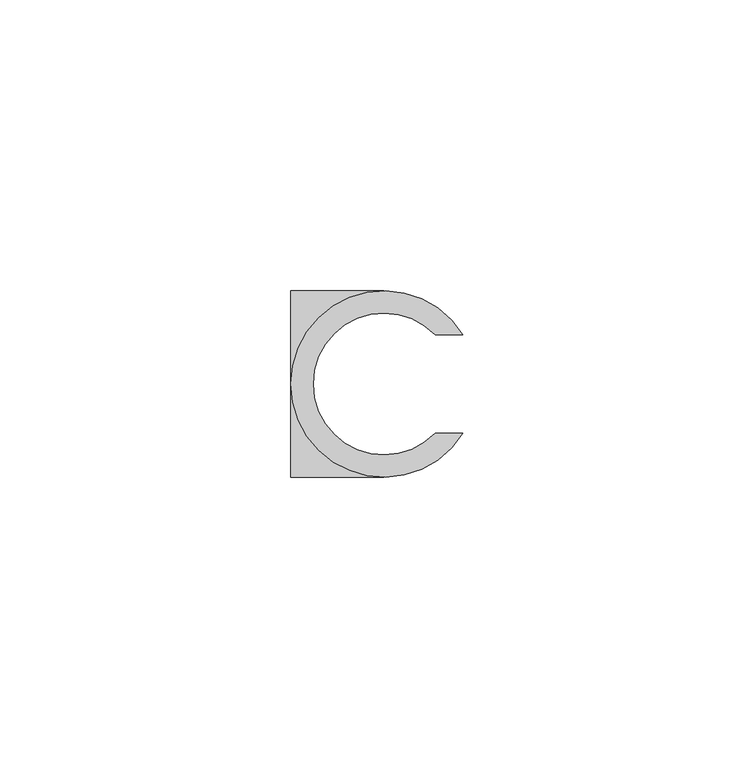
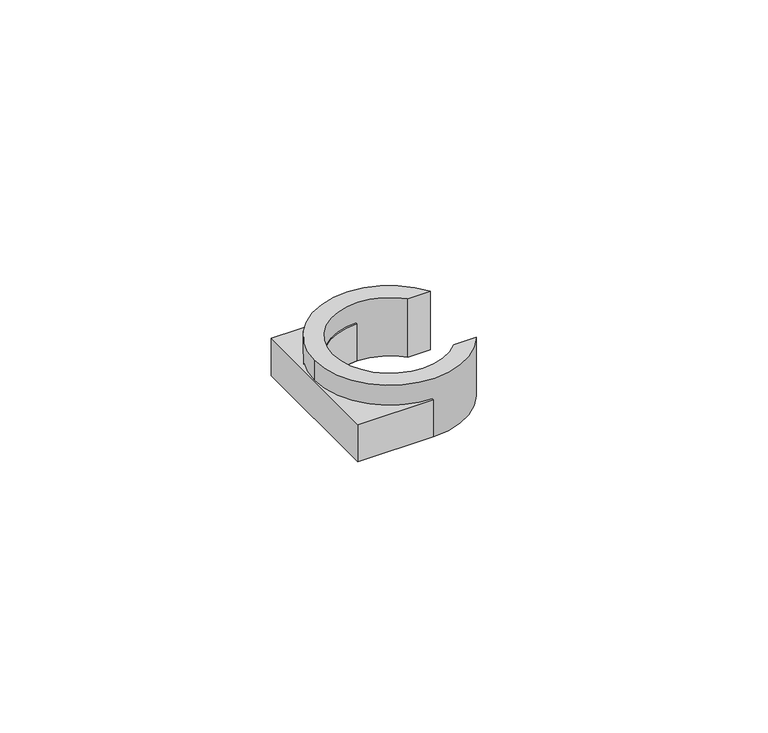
"""IFC4 building model written with IfcOpenShell, lengths in millimetres: valve geometry, EGB_VASEN_ PPR_Abrazadera simple WXR710 : Abrazadera simple WXR710."""

from ifc_helpers import new_model, si_unit, point, origin, origin_with_axes, origin_2d, place, context, project, spatial, polyline, circle_curve, trimmed, segment, composite_curve, outline, extrude, source, transform, mapped, element, save


def valve_4596e6fb(model_context):
    return source(origin(), model_context, "Body", "SweptSolid", [
        extrude(outline(composite_curve([segment(polyline([(0.0, -16.0), (-16.0, -16.0), (-16.0, 16.0), (0.0, 16.0), (0.0, 12.2)]), True, "CONTINUOUS"), segment(trimmed(circle_curve(origin_2d(), 12.2), [point((0.0, 12.2))], [point((-12.2, 0.0))], True, "CARTESIAN"), True, "CONTINUOUS"), segment(trimmed(circle_curve(origin_2d(), 12.2), [point((-12.2, 0.0))], [point((0.0, -12.2))], True, "CARTESIAN"), True, "CONTINUOUS"), segment(polyline([(0.0, -12.2), (0.0, -16.0)]), True, "CONTINUOUS")], self_intersect=False)), origin_with_axes(), (0.0, 0.0, 1.0), 8.35),
        extrude(outline(composite_curve([segment(trimmed(circle_curve(origin_2d(), 16.0), [point((-16.0, 0.0))], [point((13.571086, 8.475))], False, "CARTESIAN"), True, "CONTINUOUS"), segment(polyline([(13.571086, 8.475), (8.7757834, 8.475)]), True, "CONTINUOUS"), segment(trimmed(circle_curve(origin_2d(), 12.2), [point((8.7757834, 8.475))], [point((-12.2, 0.0))], True, "CARTESIAN"), True, "CONTINUOUS"), segment(trimmed(circle_curve(origin_2d(), 12.2), [point((-12.2, 0.0))], [point((8.7757834, -8.475))], True, "CARTESIAN"), True, "CONTINUOUS"), segment(polyline([(8.7757834, -8.475), (13.571086, -8.475)]), True, "CONTINUOUS"), segment(trimmed(circle_curve(origin_2d(), 16.0), [point((13.571086, -8.475))], [point((-16.0, 0.0))], False, "CARTESIAN"), True, "CONTINUOUS")], self_intersect=False)), origin_with_axes(), (0.0, 0.0, 1.0), 13.15),
    ])


if __name__ == "__main__":
    model = new_model("IFC4")
    model_context = context("Model", 3, world=origin())
    ifc_project = project(units=[si_unit("LENGTHUNIT", "METRE", prefix="MILLI")], contexts=[model_context])
    site = spatial("IfcSite", under=ifc_project)
    building = spatial("IfcBuilding", under=site)
    placement = place(None, origin())
    valve_shape = valve_4596e6fb(model_context)
    element("IfcValve", 1, ObjectType="EGB_VASEN_ PPR_Abrazadera simple WXR710 : Abrazadera simple WXR710", at=placement, inside=building, context=model_context, shape_type="MappedRepresentation", body=[
        mapped(valve_shape, transform((0.0, 0.0, 0.0), x_axis=(1.0, 0.0, 0.0), y_axis=(0.0, 1.0, 0.0), z_axis=(0.0, 0.0, 1.0))),
    ])
    save(model, "model.ifc")
